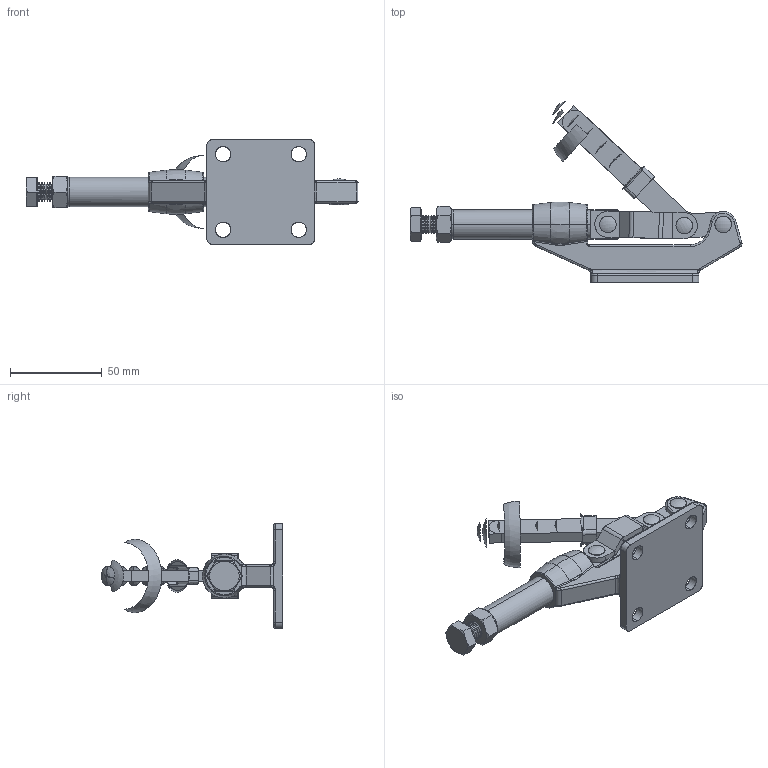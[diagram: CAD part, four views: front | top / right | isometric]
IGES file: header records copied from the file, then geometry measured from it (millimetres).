
Start section: SolidWorks IGES file using analytic representation for surfaces
Global section: file name: \\BARTOP_SV6\share\SOLIDWORKS\工具事業部\坂入用\Toggle clamp\ISK-SL2000\ISK-SL2000.IGS; native system: SolidWorks 2015; preprocessor: SolidWorks 2015; author: SOLID02; date: 150724.171837; units: millimetre
Bounding box: 180.58 x 98.9 x 57.2 mm (x, y, z)
Surface area: 40356.7 mm2 (no closed solid volume)
Topology: 0 solids, 0 shells, 556 faces, 5519 edges, 5513 vertices
Faces by surface type: revolution 333, bspline 223
